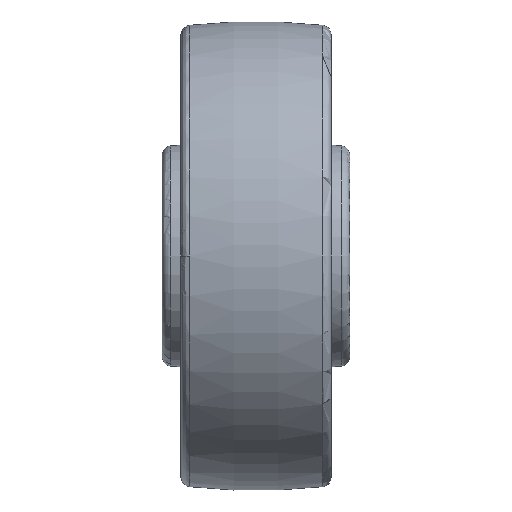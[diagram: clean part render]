
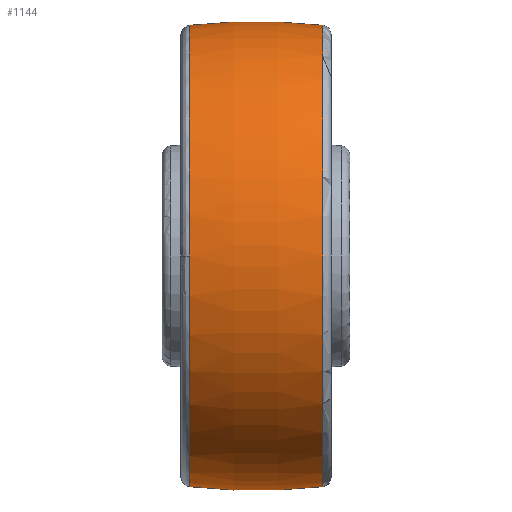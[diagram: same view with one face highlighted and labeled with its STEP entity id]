
A CAD part, front view. The second image highlights one B-rep face of the part: STEP entity #1144.
In plain terms, the highlighted toroidal (fillet/blend) face has major radius 117.75 mm and minor radius 192.75 mm.
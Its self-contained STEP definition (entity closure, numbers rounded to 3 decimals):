
#72 = VERTEX_POINT ( 'NONE', #1594 ) ;
#98 = VERTEX_POINT ( 'NONE', #1542 ) ;
#100 = EDGE_CURVE ( 'NONE', #72, #98, #1540, .T. ) ;
#543 = VERTEX_POINT ( 'NONE', #3510 ) ;
#544 = VERTEX_POINT ( 'NONE', #3509 ) ;
#559 = VERTEX_POINT ( 'NONE', #3594 ) ;
#578 = EDGE_CURVE ( 'NONE', #98, #559, #3554, .T. ) ;
#588 = EDGE_CURVE ( 'NONE', #543, #544, #3369, .T. ) ;
#1074 = ORIENTED_EDGE ( 'NONE', *, *, #100, .T. ) ;
#1075 = ORIENTED_EDGE ( 'NONE', *, *, #578, .T. ) ;
#1076 = ORIENTED_EDGE ( 'NONE', *, *, #1140, .T. ) ;
#1140 = EDGE_CURVE ( 'NONE', #559, #544, #6076, .T. ) ;
#1144 = ADVANCED_FACE ( 'NONE', ( #6067 ), #6066, .T. ) ;
#1145 = EDGE_LOOP ( 'NONE', ( #1146, #1147, #1074, #1075, #1076 ) ) ;
#1146 = ORIENTED_EDGE ( 'NONE', *, *, #588, .F. ) ;
#1147 = ORIENTED_EDGE ( 'NONE', *, *, #1148, .T. ) ;
#1148 = EDGE_CURVE ( 'NONE', #543, #72, #6065, .T. ) ;
#1536 = DIRECTION ( 'NONE',  ( 0., 0., -1. ) ) ;
#1537 = DIRECTION ( 'NONE',  ( 1., 0., 0. ) ) ;
#1538 = CARTESIAN_POINT ( 'NONE',  ( -21.332, 0., 0. ) ) ;
#1539 = AXIS2_PLACEMENT_3D ( 'NONE', #1538, #1537, #1536 ) ;
#1540 = CIRCLE ( 'NONE', #1539, 73.816 ) ;
#1542 = CARTESIAN_POINT ( 'NONE',  ( -21.332, 0., -73.816 ) ) ;
#1594 = CARTESIAN_POINT ( 'NONE',  ( -21.332, -73.816, 0. ) ) ;
#3365 = DIRECTION ( 'NONE',  ( 0., 0., 1. ) ) ;
#3366 = DIRECTION ( 'NONE',  ( 0., 1., 0. ) ) ;
#3367 = CARTESIAN_POINT ( 'NONE',  ( 0., 0., -117.75 ) ) ;
#3368 = AXIS2_PLACEMENT_3D ( 'NONE', #3367, #3366, #3365 ) ;
#3369 = CIRCLE ( 'NONE', #3368, 192.75 ) ;
#3509 = CARTESIAN_POINT ( 'NONE',  ( 21.332, 0., 73.816 ) ) ;
#3510 = CARTESIAN_POINT ( 'NONE',  ( -21.332, 0., 73.816 ) ) ;
#3550 = DIRECTION ( 'NONE',  ( 0., 0., -1. ) ) ;
#3551 = DIRECTION ( 'NONE',  ( 0., -1., 0. ) ) ;
#3552 = CARTESIAN_POINT ( 'NONE',  ( 0., 0., 117.75 ) ) ;
#3553 = AXIS2_PLACEMENT_3D ( 'NONE', #3552, #3551, #3550 ) ;
#3554 = CIRCLE ( 'NONE', #3553, 192.75 ) ;
#3594 = CARTESIAN_POINT ( 'NONE',  ( 21.332, 0., -73.816 ) ) ;
#6057 = DIRECTION ( 'NONE',  ( 0., 0., -1. ) ) ;
#6058 = DIRECTION ( 'NONE',  ( 1., 0., 0. ) ) ;
#6059 = CARTESIAN_POINT ( 'NONE',  ( -21.332, 0., 0. ) ) ;
#6060 = AXIS2_PLACEMENT_3D ( 'NONE', #6059, #6058, #6057 ) ;
#6061 = DIRECTION ( 'NONE',  ( 0., 0., -1. ) ) ;
#6062 = DIRECTION ( 'NONE',  ( 1., 0., 0. ) ) ;
#6063 = CARTESIAN_POINT ( 'NONE',  ( 0., 0., 0. ) ) ;
#6064 = AXIS2_PLACEMENT_3D ( 'NONE', #6063, #6062, #6061 ) ;
#6065 = CIRCLE ( 'NONE', #6060, 73.816 ) ;
#6066 = TOROIDAL_SURFACE ( 'NONE', #6064, -117.75, 192.75 ) ;
#6067 = FACE_OUTER_BOUND ( 'NONE', #1145, .T. ) ;
#6068 = DIRECTION ( 'NONE',  ( 0., 0., 1. ) ) ;
#6069 = DIRECTION ( 'NONE',  ( -1., 0., 0. ) ) ;
#6070 = CARTESIAN_POINT ( 'NONE',  ( 21.332, 0., 0. ) ) ;
#6071 = AXIS2_PLACEMENT_3D ( 'NONE', #6070, #6069, #6068 ) ;
#6076 = CIRCLE ( 'NONE', #6071, 73.816 ) ;
